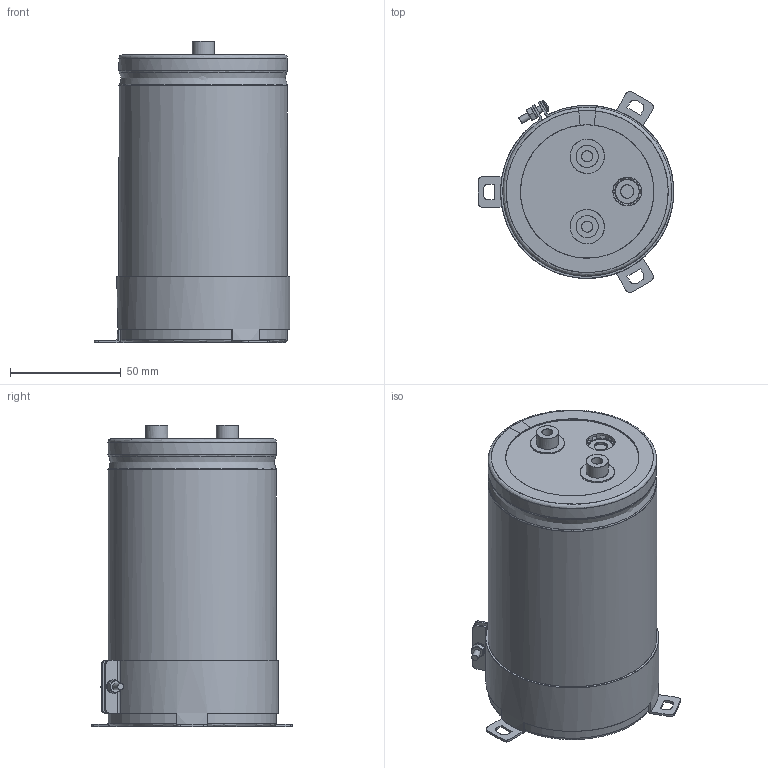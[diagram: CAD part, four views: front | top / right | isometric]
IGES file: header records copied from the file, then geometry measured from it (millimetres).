
Start section: JAMA-IS VERSION  1.0
Bounding box: 88.3 x 90.75 x 136 mm (x, y, z)
Surface area: 123582 mm2 (no closed solid volume)
Topology: 0 solids, 0 shells, 259 faces, 4448 edges, 4417 vertices
Faces by surface type: bspline 259
